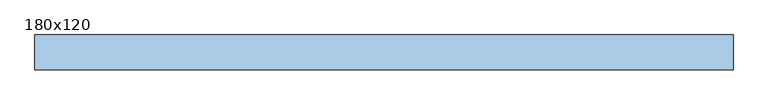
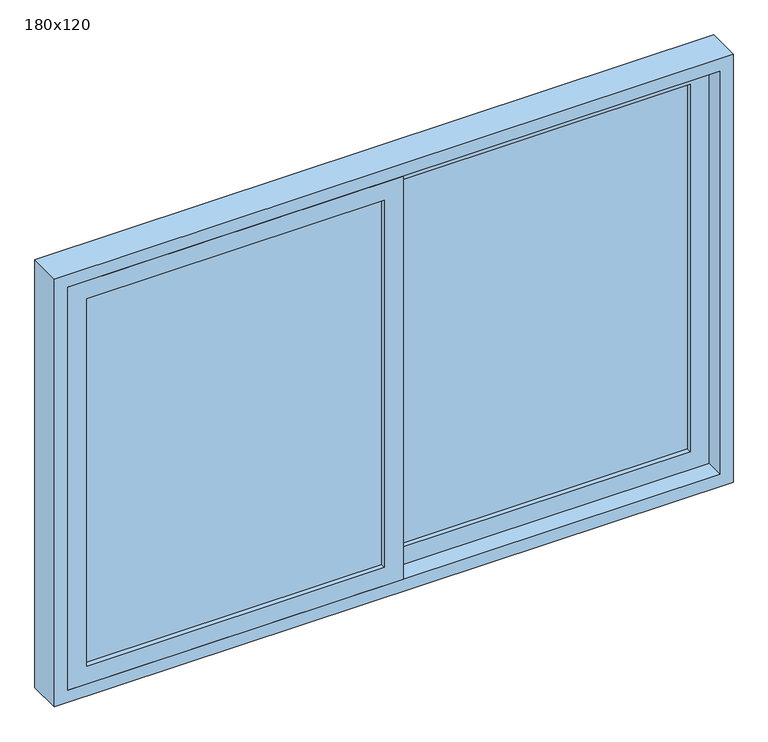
"""IFC4 building model written with IfcOpenShell, lengths in millimetres: window geometry, Janela de correr - 2 Painéis : 180x120."""

from ifc_helpers import new_model, si_unit, frame, origin, place, context, project, spatial, polyline, outline, extrude, source, transform, mapped, element, save


def window_180x120_f0fd8075(model_context):
    return source(origin(), model_context, "Body", "SweptSolid", [
        extrude(outline(polyline([(685.0, -25.0), (685.0, 865.0), (1815.0, 865.0), (1815.0, -25.0), (685.0, -25.0)]), holes=[polyline([(1765.0, 25.0), (1765.0, 815.0), (735.0, 815.0), (735.0, 25.0), (1765.0, 25.0)])]), frame((0.0, -20.0, 0.0), z_axis=(0.0, 1.0, 0.0), x_axis=(0.0, 0.0, 1.0)), (0.0, 0.0, 1.0), 40.0),
        extrude(outline(polyline([(1815.0, 25.0), (1815.0, -865.0), (685.0, -865.0), (685.0, 25.0), (1815.0, 25.0)]), holes=[polyline([(735.0, -25.0), (735.0, -815.0), (1765.0, -815.0), (1765.0, -25.0), (735.0, -25.0)])]), frame((0.0, -70.0, 0.0), z_axis=(0.0, 1.0, 0.0), x_axis=(0.0, 0.0, 1.0)), (0.0, 0.0, 1.0), 40.0),
        extrude(outline(polyline([(1850.0, 900.0), (1850.0, -900.0), (650.0, -900.0), (650.0, 900.0), (1850.0, 900.0)]), holes=[polyline([(685.0, 865.0), (685.0, -865.0), (1815.0, -865.0), (1815.0, 865.0), (685.0, 865.0)])]), frame((0.0, -70.0, 0.0), z_axis=(0.0, 1.0, 0.0), x_axis=(0.0, 0.0, 1.0)), (0.0, 0.0, 1.0), 90.0),
        extrude(outline(polyline([(25.0, 7.0), (815.0, 7.0), (815.0, -7.0), (25.0, -7.0), (25.0, 7.0)])), frame((0.0, 0.0, 735.0), z_axis=(0.0, 0.0, 1.0), x_axis=(1.0, 0.0, 0.0)), (0.0, 0.0, 1.0), 1030.0),
        extrude(outline(polyline([(-815.0, -43.0), (-25.0, -43.0), (-25.0, -57.0), (-815.0, -57.0), (-815.0, -43.0)])), frame((0.0, 0.0, 735.0), z_axis=(0.0, 0.0, 1.0), x_axis=(1.0, 0.0, 0.0)), (0.0, 0.0, 1.0), 1030.0),
    ])


if __name__ == "__main__":
    model = new_model("IFC4")
    model_context = context("Model", 3, world=origin())
    ifc_project = project(units=[si_unit("LENGTHUNIT", "METRE", prefix="MILLI")], contexts=[model_context])
    site = spatial("IfcSite", under=ifc_project)
    building = spatial("IfcBuilding", under=site)
    placement = place(None, origin())
    window_180x120_shape = window_180x120_f0fd8075(model_context)
    element("IfcWindow", 1, ObjectType="Janela de correr - 2 Painéis : 180x120", at=placement, inside=building, context=model_context, shape_type="MappedRepresentation", body=[
        mapped(window_180x120_shape, transform((0.0, 0.0, 0.0), x_axis=(1.0, 0.0, 0.0), y_axis=(0.0, 1.0, 0.0), z_axis=(0.0, 0.0, 1.0))),
    ])
    save(model, "model.ifc")
